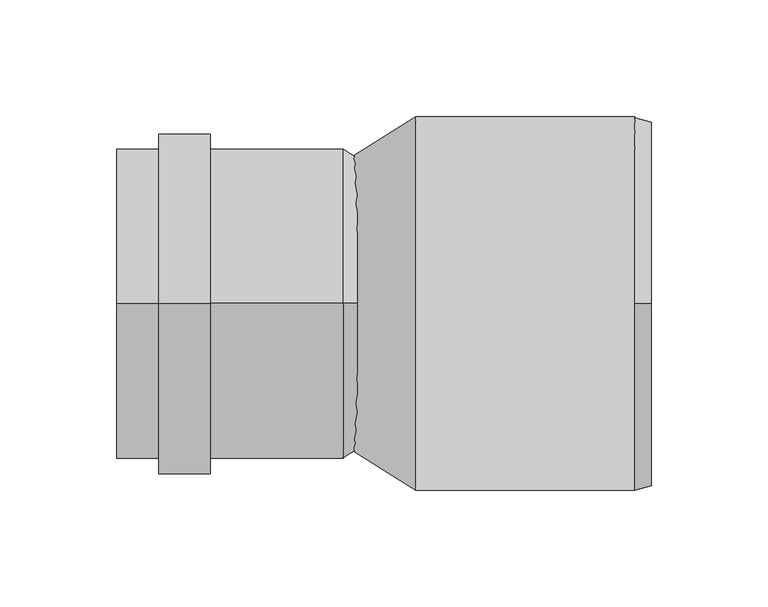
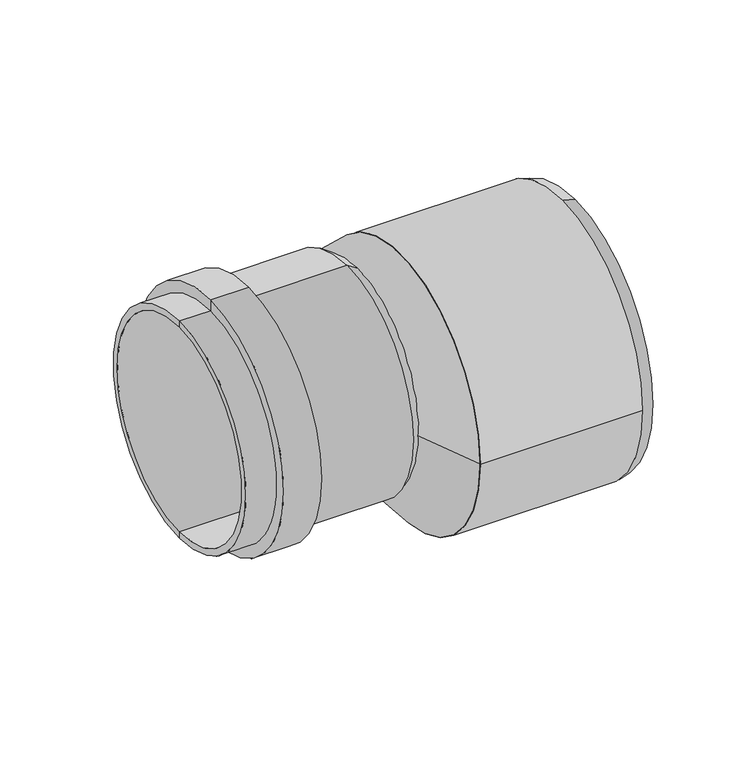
"""IFC4 building model written with IfcOpenShell, lengths in millimetres: pipe fitting geometry, OSMA_KG2000_PPKGR : Redukce nesouosá dlouhá."""

from ifc_helpers import new_model, si_unit, frame, origin, place, context, project, spatial, polyline, circle_curve, source, transform, mapped, element, save
from ifc_brep_helpers import plane_surface, cylinder_surface, revolved_surface, spline_surface, advanced_brep


def pipe_fitting_c5ee8e17(model_context):
    return source(origin(), model_context, "Body", "AdvancedBrep", [
        advanced_brep(
        [(-3.0, 0.0, 62.5), (-3.0, 0.0, -62.5), (-100.0, 0.0, -62.5), (-100.0, 0.0, 62.5), (-60.0, 0.0, 66.4), (-60.0, 0.0, -66.4), (-3.0, 0.0, -66.4), (-3.0, 0.0, 66.4), (-60.0, 0.0, -73.0), (-60.0, 0.0, 73.0), (-82.0, 0.0, -73.0), (-82.0, 0.0, 73.0), (-82.0, 0.0, -66.4), (-82.0, 0.0, 66.4), (-100.0, 0.0, -66.4), (-100.0, 0.0, 66.4), (3.0, 0.0, 58.6), (3.0, 0.0, -58.6), (3.0, 0.0, 62.5), (3.0, 0.0, -62.5)],
        [
            (0, 1, circle_curve(frame((-3.0, 0.0, 0.0), z_axis=(1.0, 0.0, 0.0), x_axis=(0.0, 0.0, -1.0)), 62.5)),
            (1, 2),
            (2, 3, circle_curve(frame((-100.0, 0.0, 0.0), z_axis=(-1.0, 0.0, 0.0), x_axis=(0.0, 0.0, -1.0)), 62.5)),
            (3, 0),
            (1, 0, circle_curve(frame((-3.0, 0.0, 0.0), z_axis=(1.0, 0.0, 0.0), x_axis=(0.0, 0.0, -1.0)), 62.5)),
            (3, 2, circle_curve(frame((-100.0, 0.0, 0.0), z_axis=(-1.0, 0.0, 0.0), x_axis=(0.0, 0.0, -1.0)), 62.5)),
            (4, 5, circle_curve(frame((-60.0, 0.0, 0.0), z_axis=(1.0, 0.0, 0.0), x_axis=(0.0, 0.0, -1.0)), 66.4)),
            (5, 6),
            (6, 7, circle_curve(frame((-3.0, 0.0, 0.0), z_axis=(-1.0, 0.0, 0.0), x_axis=(0.0, 0.0, -1.0)), 66.4)),
            (7, 4),
            (8, 9, circle_curve(frame((-60.0, 0.0, 0.0), z_axis=(1.0, 0.0, 0.0), x_axis=(0.0, 0.0, -1.0)), 73.0)),
            (9, 4),
            (4, 5, circle_curve(frame((-60.0, 0.0, 0.0), z_axis=(-1.0, 0.0, 0.0), x_axis=(0.0, 0.0, -1.0)), 66.4)),
            (5, 8),
            (10, 11, circle_curve(frame((-82.0, 0.0, 0.0), z_axis=(1.0, 0.0, 0.0), x_axis=(0.0, 0.0, -1.0)), 73.0)),
            (11, 9),
            (8, 10),
            (12, 13, circle_curve(frame((-82.0, 0.0, 0.0), z_axis=(1.0, 0.0, 0.0), x_axis=(0.0, 0.0, -1.0)), 66.4)),
            (13, 11),
            (10, 12),
            (14, 15, circle_curve(frame((-100.0, 0.0, 0.0), z_axis=(1.0, 0.0, 0.0), x_axis=(0.0, 0.0, -1.0)), 66.4)),
            (15, 13),
            (12, 14),
            (16, 17, circle_curve(frame((3.0, 0.0, 0.0), z_axis=(1.0, 0.0, 0.0), x_axis=(0.0, 0.0, -1.0)), 58.6)),
            (17, 1),
            (0, 16),
            (17, 16, circle_curve(frame((3.0, 0.0, 0.0), z_axis=(1.0, 0.0, 0.0), x_axis=(0.0, 0.0, -1.0)), 58.6)),
            (18, 19, circle_curve(frame((3.0, 0.0, 0.0), z_axis=(1.0, 0.0, 0.0), x_axis=(0.0, 0.0, -1.0)), 62.5)),
            (19, 17),
            (16, 18),
            (19, 18, circle_curve(frame((3.0, 0.0, 0.0), z_axis=(1.0, 0.0, 0.0), x_axis=(0.0, 0.0, -1.0)), 62.5)),
            (6, 19),
            (18, 7),
            (6, 7, circle_curve(frame((-3.0, 0.0, 0.0), z_axis=(1.0, 0.0, 0.0), x_axis=(0.0, 0.0, -1.0)), 66.4)),
            (9, 8, circle_curve(frame((-60.0, 0.0, 0.0), z_axis=(1.0, 0.0, 0.0), x_axis=(0.0, 0.0, -1.0)), 73.0)),
            (11, 10, circle_curve(frame((-82.0, 0.0, 0.0), z_axis=(1.0, 0.0, 0.0), x_axis=(0.0, 0.0, -1.0)), 73.0)),
            (13, 12, circle_curve(frame((-82.0, 0.0, 0.0), z_axis=(1.0, 0.0, 0.0), x_axis=(0.0, 0.0, -1.0)), 66.4)),
            (15, 14, circle_curve(frame((-100.0, 0.0, 0.0), z_axis=(1.0, 0.0, 0.0), x_axis=(0.0, 0.0, -1.0)), 66.4)),
            (2, 14),
            (15, 3),
        ],
        [
            revolved_surface(polyline([(-100.0, 0.0, -62.5), (-3.0, 0.0, -62.5)]), (-2769.4742198, 0.0, 0.0), (-1.0, 0.0, 0.0)),
            cylinder_surface(frame((-2769.4742198, 0.0, 0.0), z_axis=(-1.0, 0.0, 0.0), x_axis=(0.0, 0.0, -1.0)), 66.4),
            plane_surface(frame((-60.0, 0.0, 0.0), z_axis=(1.0, 0.0, 0.0), x_axis=(0.0, 0.0, -1.0))),
            cylinder_surface(frame((-2769.4742198, 0.0, 0.0), z_axis=(-1.0, 0.0, 0.0), x_axis=(0.0, 0.0, -1.0)), 73.0),
            plane_surface(frame((-82.0, 0.0, 0.0), z_axis=(-1.0, 0.0, 0.0), x_axis=(0.0, 0.0, -1.0))),
            revolved_surface(polyline([(-3.0, 0.0, -62.5), (3.0, 0.0, -58.6)]), (-2769.4742198, 0.0, 0.0), (-1.0, 0.0, 0.0)),
            plane_surface(frame((3.0, 0.0, 0.0), z_axis=(1.0, 0.0, 0.0), x_axis=(0.0, 0.0, -1.0))),
            revolved_surface(polyline([(3.0, 0.0, -62.5), (-3.0, 0.0, -66.4)]), (-2769.4742198, 0.0, 0.0), (-1.0, 0.0, 0.0)),
            plane_surface(frame((-100.0, 0.0, 0.0), z_axis=(-1.0, 0.0, 0.0), x_axis=(0.0, 0.0, -1.0))),
        ],
        [
            (0, [[1, 2, 3, 4]]),
            (0, [[5, -4, 6, -2]]),
            (1, [[7, 8, 9, 10]]),
            (2, [[11, 12, 13, 14]]),
            (3, [[15, 16, -11, 17]]),
            (4, [[18, 19, -15, 20]]),
            (1, [[21, 22, -18, 23]]),
            (5, [[24, 25, -1, 26]]),
            (5, [[27, -26, -5, -25]]),
            (6, [[28, 29, -24, 30]]),
            (6, [[31, -30, -27, -29]]),
            (7, [[-9, 32, -28, 33]]),
            (7, [[34, -33, -31, -32]]),
            (1, [[-13, -10, -34, -8]]),
            (2, [[35, -14, -7, -12]]),
            (3, [[36, -17, -35, -16]]),
            (4, [[37, -20, -36, -19]]),
            (1, [[38, -23, -37, -22]]),
            (8, [[-3, 39, -38, 40]]),
            (8, [[-6, -40, -21, -39]]),
        ],
    ),
        advanced_brep(
        [(129.0, 0.0, -95.6243557), (129.0, 0.0, 60.6243557), (129.0, 0.0, 57.6), (129.0, 0.0, -92.6), (122.0, 0.0, -97.5), (122.0, 80.0, -17.5), (122.0, 0.0, 62.5), (122.0, -80.0, -17.5), (122.0, 0.0, 57.6), (122.0, 0.0, -92.6), (28.0, 80.0, -17.5), (28.0, -80.0, -17.5)],
        [
            (0, 1, circle_curve(frame((129.0, 0.0, -17.5), z_axis=(1.0, 0.0, 0.0), x_axis=(0.0, 0.0, 1.0)), 78.1243557)),
            (1, 2),
            (2, 3, circle_curve(frame((129.0, 0.0, -17.5), z_axis=(-1.0, 0.0, 0.0), x_axis=(0.0, 0.0, 1.0)), 75.1)),
            (3, 0),
            (1, 0, circle_curve(frame((129.0, 0.0, -17.5), z_axis=(1.0, 0.0, 0.0), x_axis=(0.0, 0.0, 1.0)), 78.1243557)),
            (3, 2, circle_curve(frame((129.0, 0.0, -17.5), z_axis=(-1.0, 0.0, 0.0), x_axis=(0.0, 0.0, 1.0)), 75.1)),
            (0, 4),
            (4, 5, circle_curve(frame((122.0, 0.0, -17.5), z_axis=(1.0, 0.0, 0.0), x_axis=(0.0, 0.0, 1.0)), 80.0)),
            (5, 6, circle_curve(frame((122.0, 0.0, -17.5), z_axis=(1.0, 0.0, 0.0), x_axis=(0.0, 0.0, 1.0)), 80.0)),
            (6, 1),
            (6, 7, circle_curve(frame((122.0, 0.0, -17.5), z_axis=(1.0, 0.0, 0.0), x_axis=(0.0, 0.0, 1.0)), 80.0)),
            (7, 4, circle_curve(frame((122.0, 0.0, -17.5), z_axis=(1.0, 0.0, 0.0), x_axis=(0.0, 0.0, 1.0)), 80.0)),
            (2, 8),
            (8, 9, circle_curve(frame((122.0, 0.0, -17.5), z_axis=(-1.0, 0.0, 0.0), x_axis=(0.0, 0.0, 1.0)), 75.1)),
            (9, 3),
            (9, 8, circle_curve(frame((122.0, 0.0, -17.5), z_axis=(-1.0, 0.0, 0.0), x_axis=(0.0, 0.0, 1.0)), 75.1)),
            (10, 11, circle_curve(frame((28.0, 0.0, -17.5), z_axis=(-1.0, 0.0, 0.0), x_axis=(0.0, -1.0, 0.0)), 80.0)),
            (11, 10, circle_curve(frame((28.0, 0.0, -17.5), z_axis=(-1.0, 0.0, 0.0), x_axis=(0.0, -1.0, 0.0)), 80.0)),
            (11, 7),
            (5, 10),
        ],
        [
            plane_surface(frame((129.0, 0.0, -17.5), z_axis=(1.0, 0.0, 0.0), x_axis=(0.0, 0.0, 1.0))),
            revolved_surface(polyline([(129.0, 0.0, 60.6243557), (122.0, 0.0, 62.5)]), (46.4287569, 0.0, -17.5), (-1.0, 0.0, 0.0)),
            revolved_surface(polyline([(122.0, 0.0, 57.599999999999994), (129.0, 0.0, 57.599999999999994)]), (46.4287569, 0.0, -17.5), (-1.0, 0.0, 0.0)),
            plane_surface(frame((122.0, 0.0, 0.0), z_axis=(1.0, 0.0, 0.0), x_axis=(0.0, 0.0, 1.0))),
            plane_surface(frame((28.0, 0.0, 0.0), z_axis=(-1.0, 0.0, 0.0), x_axis=(0.0, 0.0, 1.0))),
            cylinder_surface(frame((122.0, 0.0, -17.5), z_axis=(1.0, 0.0, 0.0), x_axis=(0.0, -1.0, 0.0)), 80.0),
        ],
        [
            (0, [[1, 2, 3, 4]]),
            (0, [[-2, 5, -4, 6]]),
            (1, [[-1, 7, 8, 9, 10]]),
            (1, [[-5, -10, 11, 12, -7]]),
            (2, [[-3, 13, 14, 15]]),
            (2, [[-6, -15, 16, -13]]),
            (3, [[-14, -16]]),
            (4, [[17, 18]]),
            (5, [[-18, 19, -11, -9, 20]]),
            (5, [[-17, -20, -8, -12, -19]]),
        ],
    ),
        advanced_brep(
        [(0.0, 62.5, 0.0), (0.0, -62.5, 0.0), (28.0, 80.0, -17.5), (28.0, -80.0, -17.5)],
        [
            (0, 1, circle_curve(frame((0.0, 0.0, 0.0), z_axis=(-1.0, 0.0, 0.0), x_axis=(0.0, -1.0, 0.0)), 62.5)),
            (1, 0, circle_curve(frame((0.0, 0.0, 0.0), z_axis=(-1.0, 0.0, 0.0), x_axis=(0.0, -1.0, 0.0)), 62.5)),
            (2, 3, circle_curve(frame((28.0, 0.0, -17.5), z_axis=(1.0, 0.0, 0.0), x_axis=(0.0, -1.0, 0.0)), 80.0)),
            (3, 2, circle_curve(frame((28.0, 0.0, -17.5), z_axis=(1.0, 0.0, 0.0), x_axis=(0.0, -1.0, 0.0)), 80.0)),
            (3, 1),
            (0, 2),
        ],
        [
            plane_surface(frame((0.0, 0.0, 0.0), z_axis=(-1.0, 0.0, 0.0), x_axis=(0.0, 0.0, -1.0))),
            plane_surface(frame((28.0, 0.0, -17.5), z_axis=(1.0, 0.0, 0.0), x_axis=(0.0, 0.0, -1.0))),
            spline_surface(2, 1, [[(28.0, 80.0, -17.5), (0.0, 62.5, 0.0)], [(28.0, 80.0, -97.5), (0.0, 62.5, -62.5)], [(28.0, 0.0, -97.5), (0.0, 0.0, -62.5)], [(28.0, -80.0, -97.5), (0.0, -62.5, -62.5)], [(28.0, -80.0, -17.5), (0.0, -62.5, 0.0)]], [3, 2, 3], [2, 2], [0.0, 1.0, 2.0], [0.0, 1.0], weights=[[1.0, 1.0], [0.7071067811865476, 0.7071067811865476], [1.0, 1.0], [0.7071067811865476, 0.7071067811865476], [1.0, 1.0]]),
            spline_surface(2, 1, [[(28.0, -80.0, -17.5), (0.0, -62.5, 0.0)], [(28.0, -80.0, 62.5), (0.0, -62.5, 62.5)], [(28.0, 0.0, 62.5), (0.0, 0.0, 62.5)], [(28.0, 80.0, 62.5), (0.0, 62.5, 62.5)], [(28.0, 80.0, -17.5), (0.0, 62.5, 0.0)]], [3, 2, 3], [2, 2], [0.0, 1.0, 2.0], [0.0, 1.0], weights=[[1.0, 1.0], [0.7071067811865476, 0.7071067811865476], [1.0, 1.0], [0.7071067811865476, 0.7071067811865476], [1.0, 1.0]]),
        ],
        [
            (0, [[1, 2]]),
            (1, [[3, 4]]),
            (2, [[-4, 5, -1, 6]]),
            (3, [[-3, -6, -2, -5]]),
        ],
    ),
    ])


if __name__ == "__main__":
    model = new_model("IFC4")
    model_context = context("Model", 3, world=origin())
    ifc_project = project(units=[si_unit("LENGTHUNIT", "METRE", prefix="MILLI")], contexts=[model_context])
    site = spatial("IfcSite", under=ifc_project)
    building = spatial("IfcBuilding", under=site)
    placement = place(None, origin())
    pipe_fitting_shape = pipe_fitting_c5ee8e17(model_context)
    element("IfcPipeFitting", 1, ObjectType="OSMA_KG2000_PPKGR : Redukce nesouosá dlouhá", at=placement, inside=building, context=model_context, shape_type="MappedRepresentation", body=[
        mapped(pipe_fitting_shape, transform((0.0, 0.0, 0.0), x_axis=(1.0, 0.0, 0.0), y_axis=(0.0, 1.0, 0.0), z_axis=(0.0, 0.0, 1.0))),
    ])
    save(model, "model.ifc")
